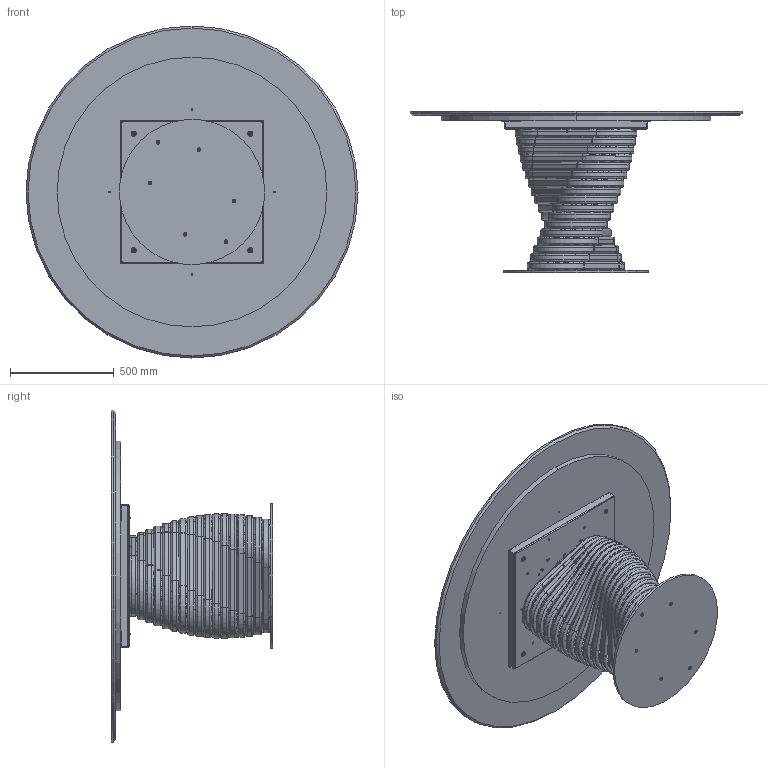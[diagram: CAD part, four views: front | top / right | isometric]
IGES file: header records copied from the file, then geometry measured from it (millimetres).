
Start section: SolidWorks IGES file using analytic representation for surfaces
Global section: file name: Y:\eforma\TECNICO\SOLIDWORKS\E-FORMA\1-TAVOLI\ROTOLO\02 parts\RO08M.IGS; native system: SolidWorks 2022; preprocessor: SolidWorks 2022; author: eforma.tech; date: 240807.151122; units: millimetre
Bounding box: 1600 x 777 x 1600 mm (x, y, z)
Volume: 84951745.9 mm3; surface area: 13735495.1 mm2
Topology: 98 solids, 98 shells, 1802 faces, 4390 edges, 2755 vertices
Faces by surface type: revolution 1058, plane 744
